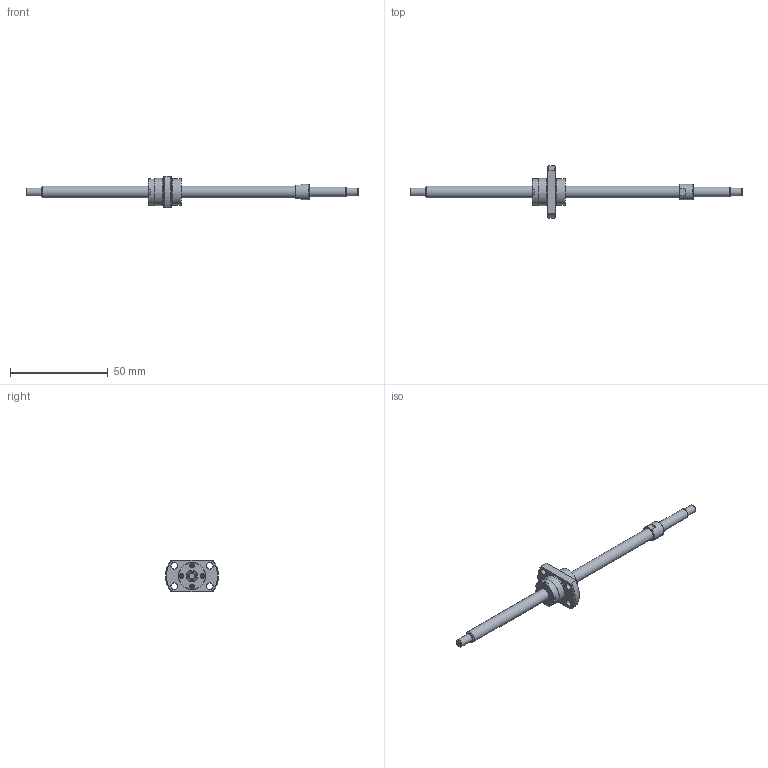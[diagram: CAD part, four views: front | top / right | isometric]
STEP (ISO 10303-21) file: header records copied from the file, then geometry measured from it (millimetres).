
FILE_DESCRIPTION(/* description */ ('STEP AP214'),/* implementation_level */ '2;1');
FILE_NAME(/* name */ 'SG0606-126R170C5C0X(54.5)',/* time_stamp */ '2026-07-20T20:19:40+02:00',/* author */ ('License CC BY-ND 4.0'),/* organization */ ('CADENAS'),/* preprocessor_version */ 'ST-DEVELOPER v20',/* originating_system */ 'PARTsolutions',/* authorisation */ ' ');
FILE_SCHEMA (('AUTOMOTIVE_DESIGN {1 0 10303 214 3 1 1}'));
Length unit declared in the file: millimetre
Products named in the file (3): SG0606-126R170C5C0X(54.5); SG0606-126R170C5C_shaft; SG0606 C5_nut
Assembly tree (2 placements, depth 2):
  SG0606-126R170C5C0X(54.5)
    SG0606-126R170C5C_shaft
    SG0606 C5_nut
Bounding box: 170 x 27 x 16 mm (x, y, z)
Volume: 7463.4 mm3; surface area: 5278.6 mm2
Topology: 2 solids, 2 shells, 102 faces, 233 edges, 152 vertices
Faces by surface type: plane 63, cylinder 25, cone 13, torus 1
Full cylindrical faces by diameter (mm): 2.25 x4, 3.4 x4, 4 x2, 5 x1, 6 x2, 8 x1, 13.6 x3, 14 x2
Entity records: 2811 total; most frequent: CARTESIAN_POINT 481, DIRECTION 478, ORIENTED_EDGE 404, EDGE_CURVE 202, AXIS2_PLACEMENT_3D 179, EDGE_LOOP 158, FACE_BOUND 158, VERTEX_POINT 150
